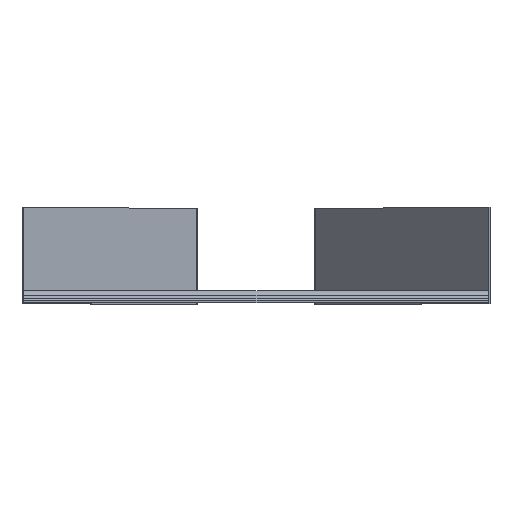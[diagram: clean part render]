
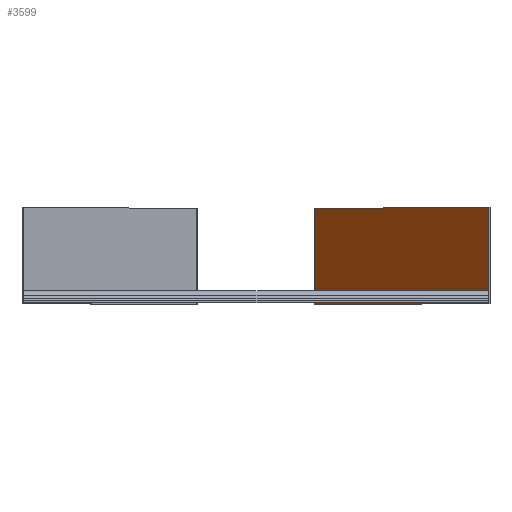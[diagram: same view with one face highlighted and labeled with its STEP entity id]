
A CAD part, top view. The second image highlights one B-rep face of the part: STEP entity #3599.
In plain terms, the highlighted planar face has unit normal (-0.779, 0, 0.626).
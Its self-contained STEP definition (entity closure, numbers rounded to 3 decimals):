
#54 = CARTESIAN_POINT ( 'NONE',  ( 299.669, 0., -0.412 ) ) ;
#715 = CARTESIAN_POINT ( 'NONE',  ( 299.669, 124., -0.412 ) ) ;
#718 = LINE ( 'NONE', #2707, #5061 ) ;
#1031 = DIRECTION ( 'NONE',  ( 0.626, 0., 0.78 ) ) ;
#1256 = ORIENTED_EDGE ( 'NONE', *, *, #3913, .F. ) ;
#1524 = DIRECTION ( 'NONE',  ( 0., 1., 0. ) ) ;
#1561 = EDGE_CURVE ( 'NONE', #2290, #2426, #6497, .T. ) ;
#2002 = PLANE ( 'NONE',  #7133 ) ;
#2012 = ORIENTED_EDGE ( 'NONE', *, *, #2730, .T. ) ;
#2179 = VECTOR ( 'NONE', #4227, 1000. ) ;
#2290 = VERTEX_POINT ( 'NONE', #715 ) ;
#2426 = VERTEX_POINT ( 'NONE', #3176 ) ;
#2707 = CARTESIAN_POINT ( 'NONE',  ( 75.772, 0., -279.04 ) ) ;
#2730 = EDGE_CURVE ( 'NONE', #4745, #2290, #5561, .T. ) ;
#2762 = EDGE_LOOP ( 'NONE', ( #1256, #7357, #2012, #7769 ) ) ;
#3127 = EDGE_CURVE ( 'NONE', #4745, #4368, #6239, .T. ) ;
#3176 = CARTESIAN_POINT ( 'NONE',  ( 75.772, 124., -279.04 ) ) ;
#3599 = ADVANCED_FACE ( 'NONE', ( #5904 ), #2002, .T. ) ;
#3617 = CARTESIAN_POINT ( 'NONE',  ( 300., 0., 0. ) ) ;
#3710 = CARTESIAN_POINT ( 'NONE',  ( 300., 124., 0. ) ) ;
#3842 = DIRECTION ( 'NONE',  ( -0.626, 0., -0.78 ) ) ;
#3913 = EDGE_CURVE ( 'NONE', #4368, #2426, #718, .T. ) ;
#4044 = DIRECTION ( 'NONE',  ( 0., 1., 0. ) ) ;
#4227 = DIRECTION ( 'NONE',  ( -0.626, 0., -0.78 ) ) ;
#4368 = VERTEX_POINT ( 'NONE', #7143 ) ;
#4745 = VERTEX_POINT ( 'NONE', #54 ) ;
#5001 = CARTESIAN_POINT ( 'NONE',  ( 299.669, 0., -0.412 ) ) ;
#5061 = VECTOR ( 'NONE', #4044, 1000. ) ;
#5167 = CARTESIAN_POINT ( 'NONE',  ( 300., 124., 0. ) ) ;
#5194 = VECTOR ( 'NONE', #1524, 1000. ) ;
#5561 = LINE ( 'NONE', #5001, #5194 ) ;
#5584 = DIRECTION ( 'NONE',  ( -0.78, 0., 0.626 ) ) ;
#5904 = FACE_OUTER_BOUND ( 'NONE', #2762, .T. ) ;
#6105 = VECTOR ( 'NONE', #3842, 1000. ) ;
#6239 = LINE ( 'NONE', #3617, #2179 ) ;
#6497 = LINE ( 'NONE', #5167, #6105 ) ;
#7133 = AXIS2_PLACEMENT_3D ( 'NONE', #3710, #5584, #1031 ) ;
#7143 = CARTESIAN_POINT ( 'NONE',  ( 75.772, 0., -279.04 ) ) ;
#7357 = ORIENTED_EDGE ( 'NONE', *, *, #3127, .F. ) ;
#7769 = ORIENTED_EDGE ( 'NONE', *, *, #1561, .T. ) ;
